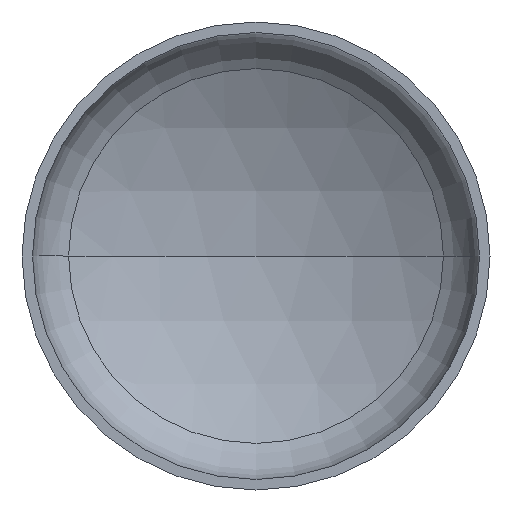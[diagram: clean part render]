
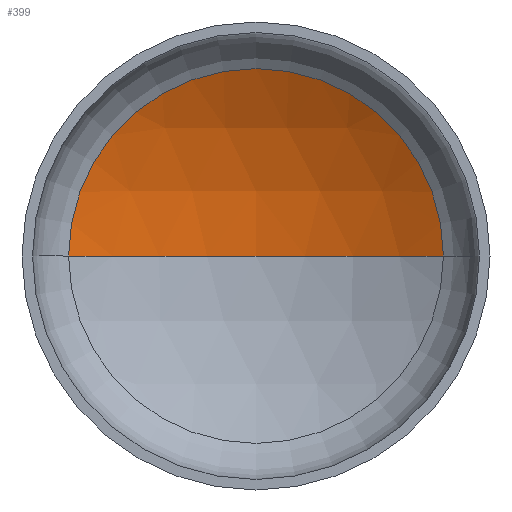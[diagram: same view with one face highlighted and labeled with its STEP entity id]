
A CAD part, front view. The second image highlights one B-rep face of the part: STEP entity #399.
In plain terms, the highlighted spherical face has radius 284 mm.
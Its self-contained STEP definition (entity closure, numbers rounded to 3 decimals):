
#7 = DIRECTION ( 'NONE',  ( 1., 0., 0. ) ) ;
#11 = CARTESIAN_POINT ( 'NONE',  ( -142.372, 72.59, 0. ) ) ;
#14 = CARTESIAN_POINT ( 'NONE',  ( 0., 110.854, 0. ) ) ;
#28 = DIRECTION ( 'NONE',  ( 0., 0., -1. ) ) ;
#35 = VERTEX_POINT ( 'NONE', #217 ) ;
#62 = DIRECTION ( 'NONE',  ( 0., 0., -1. ) ) ;
#75 = AXIS2_PLACEMENT_3D ( 'NONE', #394, #129, #152 ) ;
#78 = AXIS2_PLACEMENT_3D ( 'NONE', #238, #28, #371 ) ;
#83 = AXIS2_PLACEMENT_3D ( 'NONE', #206, #285, #7 ) ;
#114 = CIRCLE ( 'NONE', #75, 284. ) ;
#129 = DIRECTION ( 'NONE',  ( 0., 0., 1. ) ) ;
#132 = SPHERICAL_SURFACE ( 'NONE', #134, 284. ) ;
#134 = AXIS2_PLACEMENT_3D ( 'NONE', #258, #62, #147 ) ;
#147 = DIRECTION ( 'NONE',  ( -1., 0., 0. ) ) ;
#152 = DIRECTION ( 'NONE',  ( 1., 0., 0. ) ) ;
#171 = EDGE_LOOP ( 'NONE', ( #345, #261, #357 ) ) ;
#193 = EDGE_CURVE ( 'NONE', #35, #249, #344, .T. ) ;
#196 = EDGE_CURVE ( 'NONE', #264, #35, #410, .T. ) ;
#201 = EDGE_CURVE ( 'NONE', #264, #249, #114, .T. ) ;
#206 = CARTESIAN_POINT ( 'NONE',  ( 0., 72.59, 0. ) ) ;
#217 = CARTESIAN_POINT ( 'NONE',  ( 142.372, 72.59, 0. ) ) ;
#238 = CARTESIAN_POINT ( 'NONE',  ( 0., -173.146, 0. ) ) ;
#249 = VERTEX_POINT ( 'NONE', #11 ) ;
#258 = CARTESIAN_POINT ( 'NONE',  ( 0., -173.146, 0. ) ) ;
#261 = ORIENTED_EDGE ( 'NONE', *, *, #196, .T. ) ;
#264 = VERTEX_POINT ( 'NONE', #14 ) ;
#285 = DIRECTION ( 'NONE',  ( 0., -1., 0. ) ) ;
#344 = CIRCLE ( 'NONE', #83, 142.372 ) ;
#345 = ORIENTED_EDGE ( 'NONE', *, *, #201, .F. ) ;
#357 = ORIENTED_EDGE ( 'NONE', *, *, #193, .T. ) ;
#365 = FACE_OUTER_BOUND ( 'NONE', #171, .T. ) ;
#371 = DIRECTION ( 'NONE',  ( -1., 0., 0. ) ) ;
#394 = CARTESIAN_POINT ( 'NONE',  ( 0., -173.146, 0. ) ) ;
#399 = ADVANCED_FACE ( 'NONE', ( #365 ), #132, .F. ) ;
#410 = CIRCLE ( 'NONE', #78, 284. ) ;
